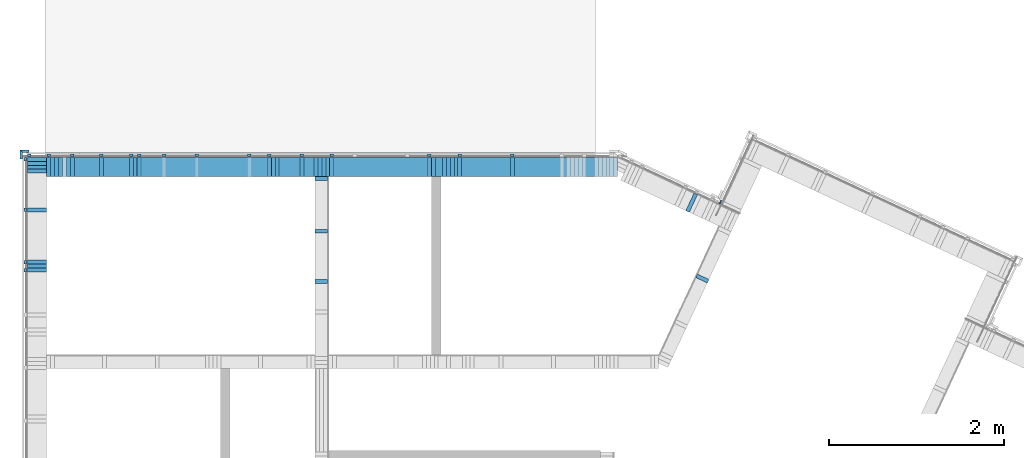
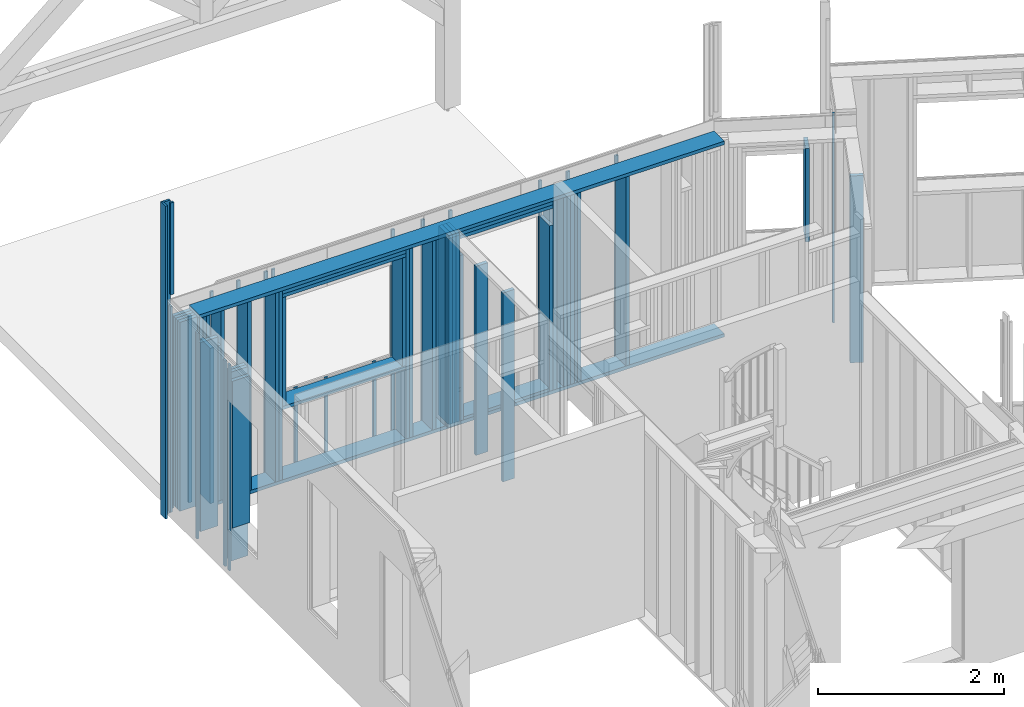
# One storey, part 13 of 34: 69 members.
"""IFC2X3 building model written with IfcOpenShell, lengths in metres."""

from ifc_helpers import new_model, si_unit, direction, frame, origin_with_axes, place, context, subcontext, project, spatial, faceted_brep, material, element, save


model = new_model("IFC2X3")

# Units and contexts
model_context = context("Model", 3, precision=1e-06, world=origin_with_axes(), true_north=direction((0.0, 1.0, 0.0)))
body_context = subcontext(model_context, "Body", "Model", "MODEL_VIEW")
ifc_project = project(units=[si_unit("LENGTHUNIT", "METRE"), si_unit("AREAUNIT", "SQUARE_METRE"), si_unit("VOLUMEUNIT", "CUBIC_METRE"), si_unit("PLANEANGLEUNIT", "RADIAN")], contexts=[model_context])

# Site, building, storey
site_placement = place(None, origin_with_axes())
site = spatial("IfcSite", under=ifc_project, at=site_placement, CompositionType="ELEMENT")
building_placement = place(site_placement, origin_with_axes())
building = spatial("IfcBuilding", under=site, at=building_placement, Name="Building 1", CompositionType="ELEMENT")
storey_placement = place(building_placement, origin_with_axes())
storey = spatial("IfcBuildingStorey", under=building, at=storey_placement, Name="Rez de chaussée", CompositionType="ELEMENT", Elevation=0.0)

# Members
ifc_material_1 = material(Name="Epicéa C24")
for number, where, z_axis, x_axis, name in (
    (1, (0.8545, 7.786, 2.568), (0.0, 1.0, 0.0), (0.0, 0.0, -1.0), "Montant"),
    (2, (0.122, 7.7385, 2.568), (-1.0, 0.0, 0.0), (0.0, 0.0, -1.0), "Montant"),
):
    element("IfcMember", number, at=place(storey_placement, frame(where, z_axis=z_axis, x_axis=x_axis)), inside=storey, material=ifc_material_1, Name=name, context=body_context, shape_type="Brep", body=[
        faceted_brep([(2.478, -0.0225, -0.11), (2.478, 0.0225, -0.11), (2.478, 0.0225, 0.11), (2.478, -0.0225, 0.11), (0.0, -0.0225, 0.11), (0.0, -0.0225, -0.11), (0.0, 0.0225, -0.11), (0.0, 0.0225, 0.11)], [[[0, 1, 2, 3]], [[0, 3, 4, 5]], [[1, 0, 5, 6]], [[2, 1, 6, 7]], [[3, 2, 7, 4]], [[4, 7, 6, 5]]]),
    ])
for number, where, z_axis, x_axis, name in (
    (3, (1.5705712, 7.921, 1.052), (0.0, 1.0, 0.0), (0.0, 0.0, -1.0), "latte 27/40"),
    (4, (2.5431423, 7.921, 1.052), (0.0, 1.0, 0.0), (0.0, 0.0, -1.0), "latte 27/40"),
    (5, (1.9431423, 7.921, 1.052), (0.0, 1.0, 0.0), (0.0, 0.0, -1.0), "latte 27/40"),
):
    element("IfcMember", number, at=place(storey_placement, frame(where, z_axis=z_axis, x_axis=x_axis)), inside=storey, material=ifc_material_1, Name=name, context=body_context, shape_type="Brep", body=[
        faceted_brep([(1.047, 0.02, -0.012), (1.047, 0.02, 0.012), (1.047, -0.02, 0.012), (1.047, -0.02, -0.012), (0.0, 0.02, 0.012), (0.0, 0.02, -0.012), (0.0, -0.02, -0.012), (0.0, -0.02, 0.012)], [[[0, 1, 2, 3]], [[4, 5, 6, 7]], [[3, 6, 5, 0]], [[2, 7, 6, 3]], [[1, 4, 7, 2]], [[0, 5, 4, 1]]]),
    ])
member_1_placement = place(storey_placement, frame((0.8545, 7.921, 2.703), z_axis=(0.0, 1.0, 0.0), x_axis=(0.0, 0.0, -1.0)))
element("IfcMember", 6, at=member_1_placement, inside=storey, material=ifc_material_1, Name="latte 27/40", context=body_context, shape_type="Brep", body=[
    faceted_brep([(2.698, 0.02, -0.012), (2.698, 0.02, 0.012), (2.698, -0.02, 0.012), (2.698, -0.02, -0.012), (0.0, 0.02, 0.012), (0.0, 0.02, -0.012), (0.0, -0.02, -0.012), (0.0, -0.02, 0.012)], [[[0, 1, 2, 3]], [[4, 5, 6, 7]], [[3, 6, 5, 0]], [[2, 7, 6, 3]], [[1, 4, 7, 2]], [[0, 5, 4, 1]]]),
])
member_2_placement = place(storey_placement, frame((0.2545, 7.921, 2.4502277), z_axis=(0.0, 1.0, 0.0), x_axis=(0.0, 0.0, -1.0)))
element("IfcMember", 7, at=member_2_placement, inside=storey, material=ifc_material_1, Name="latte 27/40", context=body_context, shape_type="Brep", body=[
    faceted_brep([(2.4452277, 0.02, -0.012), (2.4452277, 0.02, 0.012), (2.4452277, -0.02, 0.012), (2.4452277, -0.02, -0.012), (0.0, 0.02, 0.012), (0.0, 0.02, -0.012), (0.0, -0.02, -0.012), (0.0, -0.02, 0.012)], [[[0, 1, 2, 3]], [[4, 5, 6, 7]], [[3, 6, 5, 0]], [[2, 7, 6, 3]], [[1, 4, 7, 2]], [[0, 5, 4, 1]]]),
])
member_3_placement = place(storey_placement, frame((2.7718743, 7.786, 2.478), z_axis=(0.0, 1.0, 0.0), x_axis=(0.0, 0.0, -1.0)))
element("IfcMember", 8, at=member_3_placement, inside=storey, material=ifc_material_1, Name="Montant", context=body_context, shape_type="Brep", body=[
    faceted_brep([(1.426, -0.0225, -0.11), (1.426, 0.0225, -0.11), (1.426, 0.0225, 0.11), (1.426, -0.0225, 0.11), (0.0, 0.0225, -0.11), (0.0, 0.0225, 0.11), (0.0, -0.0225, -0.11), (0.0, -0.0225, 0.11)], [[[0, 1, 2, 3]], [[2, 1, 4, 5]], [[1, 0, 6, 4]], [[0, 3, 7, 6]], [[3, 2, 5, 7]], [[7, 5, 4, 6]]]),
])
for number, where, z_axis, x_axis, name in (
    (9, (4.598, 7.921, 2.703), (0.0, 1.0, 0.0), (0.0, 0.0, -1.0), "latte 27/40"),
    (10, (5.5431423, 7.921, 2.703), (0.0, 1.0, 0.0), (0.0, 0.0, -1.0), "latte 27/40"),
    (11, (4.9431423, 7.921, 2.703), (0.0, 1.0, 0.0), (0.0, 0.0, -1.0), "latte 27/40"),
):
    element("IfcMember", number, at=place(storey_placement, frame(where, z_axis=z_axis, x_axis=x_axis)), inside=storey, material=ifc_material_1, Name=name, context=body_context, shape_type="Brep", body=[
        faceted_brep([(2.698, 0.02, -0.012), (2.698, 0.02, 0.012), (2.698, -0.02, 0.012), (2.698, -0.02, -0.012), (0.0, 0.02, 0.012), (0.0, 0.02, -0.012), (0.0, -0.02, -0.012), (0.0, -0.02, 0.012)], [[[0, 1, 2, 3]], [[4, 5, 6, 7]], [[3, 6, 5, 0]], [[2, 7, 6, 3]], [[1, 4, 7, 2]], [[0, 5, 4, 1]]]),
    ])
for number, where, z_axis, x_axis, name in (
    (12, (4.9431423, 7.786, 2.568), (0.0, 1.0, 0.0), (0.0, 0.0, -1.0), "Montant"),
    (13, (3.1431423, 7.786, 2.568), (0.0, 1.0, 0.0), (0.0, 0.0, -1.0), "Montant"),
    (14, (5.5431423, 7.786, 2.568), (0.0, 1.0, 0.0), (0.0, 0.0, -1.0), "Montant"),
):
    element("IfcMember", number, at=place(storey_placement, frame(where, z_axis=z_axis, x_axis=x_axis)), inside=storey, material=ifc_material_1, Name=name, context=body_context, shape_type="Brep", body=[
        faceted_brep([(2.478, -0.0225, -0.11), (2.478, 0.0225, -0.11), (2.478, 0.0225, 0.11), (2.478, -0.0225, 0.11), (0.0, -0.0225, 0.11), (0.0, -0.0225, -0.11), (0.0, 0.0225, -0.11), (0.0, 0.0225, 0.11)], [[[0, 1, 2, 3]], [[0, 3, 4, 5]], [[1, 0, 5, 6]], [[2, 1, 6, 7]], [[3, 2, 7, 4]], [[4, 7, 6, 5]]]),
    ])
member_4_placement = place(storey_placement, frame((3.1431423, 7.921, 2.703), z_axis=(0.0, 1.0, 0.0), x_axis=(0.0, 0.0, -1.0)))
element("IfcMember", 15, at=member_4_placement, inside=storey, material=ifc_material_1, Name="latte 27/40", context=body_context, shape_type="Brep", body=[
    faceted_brep([(2.698, 0.02, -0.012), (2.698, 0.02, 0.012), (2.698, -0.02, 0.012), (2.698, -0.02, -0.012), (0.0, 0.02, 0.012), (0.0, 0.02, -0.012), (0.0, -0.02, -0.012), (0.0, -0.02, 0.012)], [[[0, 1, 2, 3]], [[4, 5, 6, 7]], [[3, 6, 5, 0]], [[2, 7, 6, 3]], [[1, 4, 7, 2]], [[0, 5, 4, 1]]]),
])
member_5_placement = place(storey_placement, frame((0.122, 7.8735, 2.568), z_axis=(-1.0, 0.0, 0.0), x_axis=(0.0, 0.0, -1.0)))
element("IfcMember", 16, at=member_5_placement, inside=storey, material=ifc_material_1, Name="Montant", context=body_context, shape_type="Brep", body=[
    faceted_brep([(2.478, -0.0225, -0.11), (2.478, 0.0225, -0.11), (2.478, 0.0225, 0.11), (2.478, -0.0225, 0.11), (0.0, -0.0225, 0.11), (0.0, -0.0225, -0.11), (0.0, 0.0225, -0.11), (0.0, 0.0225, 0.11)], [[[0, 1, 2, 3]], [[0, 3, 4, 5]], [[1, 0, 5, 6]], [[2, 1, 6, 7]], [[3, 2, 7, 4]], [[4, 7, 6, 5]]]),
])
member_6_placement = place(storey_placement, frame((2.7943743, 7.786, 2.5455), z_axis=(0.0, 1.0, 0.0), x_axis=(-1.0, 0.0, 0.0)))
element("IfcMember", 17, at=member_6_placement, inside=storey, material=ifc_material_1, Name="Montant", context=body_context, shape_type="Brep", body=[
    faceted_brep([(1.53, -0.0225, -0.11), (1.53, 0.0225, -0.11), (1.53, 0.0225, 0.11), (1.53, -0.0225, 0.11), (0.0, 0.0225, -0.11), (0.0, -0.0225, -0.11), (0.0, -0.0225, 0.11), (0.0, 0.0225, 0.11)], [[[0, 1, 2, 3]], [[4, 5, 6, 7]], [[6, 5, 0, 3]], [[5, 4, 1, 0]], [[4, 7, 2, 1]], [[7, 6, 3, 2]]]),
])
for number, where, z_axis, x_axis, name in (
    (18, (4.643, 7.786, 2.568), (0.0, 1.0, 0.0), (0.0, 0.0, -1.0), "Montant"),
    (19, (3.393, 7.786, 2.568), (0.0, 1.0, 0.0), (0.0, 0.0, -1.0), "Montant"),
):
    element("IfcMember", number, at=place(storey_placement, frame(where, z_axis=z_axis, x_axis=x_axis)), inside=storey, material=ifc_material_1, Name=name, context=body_context, shape_type="Brep", body=[
        faceted_brep([(2.478, -0.0225, -0.11), (2.478, 0.0225, -0.11), (2.478, 0.0225, 0.11), (2.478, -0.0225, 0.11), (0.0, -0.0225, 0.11), (0.0, -0.0225, -0.11), (0.0, 0.0225, -0.11), (0.0, 0.0225, 0.11)], [[[0, 1, 2, 3]], [[0, 3, 4, 5]], [[1, 0, 5, 6]], [[2, 1, 6, 7]], [[3, 2, 7, 4]], [[4, 7, 6, 5]]]),
    ])
member_7_placement = place(storey_placement, frame((1.1968743, 7.921, 2.703), z_axis=(0.0, 1.0, 0.0), x_axis=(0.0, 0.0, -1.0)))
element("IfcMember", 20, at=member_7_placement, inside=storey, material=ifc_material_1, Name="latte 27/40", context=body_context, shape_type="Brep", body=[
    faceted_brep([(2.698, 0.02, -0.012), (2.698, 0.02, 0.012), (2.698, -0.02, 0.012), (2.698, -0.02, -0.012), (0.0, 0.02, 0.012), (0.0, 0.02, -0.012), (0.0, -0.02, -0.012), (0.0, -0.02, 0.012)], [[[0, 1, 2, 3]], [[4, 5, 6, 7]], [[3, 6, 5, 0]], [[2, 7, 6, 3]], [[1, 4, 7, 2]], [[0, 5, 4, 1]]]),
])
member_8_placement = place(storey_placement, frame((4.769, 7.786, 2.568), z_axis=(0.0, 1.0, 0.0), x_axis=(0.0, 0.0, -1.0)))
element("IfcMember", 21, at=member_8_placement, inside=storey, material=ifc_material_1, Name="Montant", context=body_context, shape_type="Brep", body=[
    faceted_brep([(2.478, -0.0225, -0.11), (2.478, 0.0225, -0.11), (2.478, 0.0225, 0.11), (2.478, -0.0225, 0.11), (0.0, -0.0225, 0.11), (0.0, -0.0225, -0.11), (0.0, 0.0225, -0.11), (0.0, 0.0225, 0.11)], [[[0, 1, 2, 3]], [[0, 3, 4, 5]], [[1, 0, 5, 6]], [[2, 1, 6, 7]], [[3, 2, 7, 4]], [[4, 7, 6, 5]]]),
])
member_9_placement = place(storey_placement, frame((2.7943743, 7.786, 2.5005), z_axis=(0.0, 1.0, 0.0), x_axis=(-1.0, 0.0, 0.0)))
element("IfcMember", 22, at=member_9_placement, inside=storey, material=ifc_material_1, Name="Montant", context=body_context, shape_type="Brep", body=[
    faceted_brep([(1.53, -0.0225, -0.11), (1.53, 0.0225, -0.11), (1.53, 0.0225, 0.11), (1.53, -0.0225, 0.11), (0.0, 0.0225, -0.11), (0.0, -0.0225, -0.11), (0.0, -0.0225, 0.11), (0.0, 0.0225, 0.11)], [[[0, 1, 2, 3]], [[4, 5, 6, 7]], [[6, 5, 0, 3]], [[5, 4, 1, 0]], [[4, 7, 2, 1]], [[7, 6, 3, 2]]]),
])
ifc_material_2 = material(Name="NH II")
member_10_placement = place(storey_placement, frame((-0.0205, 7.9675, -0.08), z_axis=(-1.0, 0.0, 0.0), x_axis=(0.0, 0.0, 1.0)))
element("IfcMember", 23, at=member_10_placement, inside=storey, material=ifc_material_2, Name="Couvre joint", context=body_context, shape_type="Brep", body=[
    faceted_brep([(0.0, 0.0135, 0.0525), (0.0, -0.0135, 0.0255), (4.1028151, -0.0135, 0.0255), (4.1028151, 0.0135, 0.0525), (4.1028151, -0.0135, -0.0525), (4.1028151, 0.0135, -0.0525), (0.0, -0.0135, -0.0525), (0.0, 0.0135, -0.0525)], [[[0, 1, 2, 3]], [[3, 2, 4, 5]], [[2, 1, 6, 4]], [[1, 0, 7, 6]], [[4, 6, 7, 5]], [[5, 7, 0, 3]]]),
])
member_11_placement = place(storey_placement, frame((0.122, 6.6106735, 2.478), z_axis=(-1.0, 0.0, 0.0), x_axis=(0.0, 0.0, -1.0)))
element("IfcMember", 24, at=member_11_placement, inside=storey, material=ifc_material_1, Name="Montant", context=body_context, shape_type="Brep", body=[
    faceted_brep([(1.926, -0.0225, -0.11), (1.926, 0.0225, -0.11), (1.926, 0.0225, 0.11), (1.926, -0.0225, 0.11), (0.0, 0.0225, -0.11), (0.0, 0.0225, 0.11), (0.0, -0.0225, -0.11), (0.0, -0.0225, 0.11)], [[[0, 1, 2, 3]], [[2, 1, 4, 5]], [[1, 0, 6, 4]], [[0, 3, 7, 6]], [[3, 2, 5, 7]], [[7, 5, 4, 6]]]),
])
member_12_placement = place(storey_placement, frame((-0.0595, 7.9285, -0.08), z_axis=(0.0, -1.0, 0.0), x_axis=(0.0, 0.0, 1.0)))
element("IfcMember", 25, at=member_12_placement, inside=storey, material=ifc_material_2, Name="Couvre joint", context=body_context, shape_type="Brep", body=[
    faceted_brep([(0.0, -0.0135, -0.0255), (0.0, 0.0135, -0.0525), (4.1028151, 0.0135, -0.0525), (4.1028151, -0.0135, -0.0255), (0.0, -0.0135, 0.0525), (0.0, 0.0135, 0.0525), (4.1028151, 0.0135, 0.0525), (4.1028151, -0.0135, 0.0525)], [[[0, 1, 2, 3]], [[1, 0, 4, 5]], [[3, 2, 6, 7]], [[0, 3, 7, 4]], [[6, 5, 4, 7]], [[2, 1, 5, 6]]]),
])
member_13_placement = place(storey_placement, frame((-0.013, 6.6106735, 2.703), z_axis=(-1.0, 0.0, 0.0), x_axis=(0.0, 0.0, -1.0)))
element("IfcMember", 26, at=member_13_placement, inside=storey, material=ifc_material_1, Name="latte 27/40", context=body_context, shape_type="Brep", body=[
    faceted_brep([(0.0, -0.02, 0.012), (0.0, 0.02, 0.012), (0.0, 0.02, -0.012), (0.0, -0.02, -0.012), (2.698, 0.02, -0.012), (2.698, -0.02, -0.012), (2.698, -0.02, 0.012), (2.698, 0.02, 0.012)], [[[0, 1, 2, 3]], [[3, 2, 4, 5]], [[0, 3, 5, 6]], [[1, 0, 6, 7]], [[7, 6, 5, 4]], [[2, 1, 7, 4]]]),
])
member_14_placement = place(storey_placement, frame((6.7411423, 7.786, 0.0675), z_axis=(0.0, -1.0, 0.0), x_axis=(-1.0, 0.0, 0.0)))
element("IfcMember", 27, at=member_14_placement, inside=storey, material=ifc_material_1, Name="Lisse basse", context=body_context, shape_type="Brep", body=[
    faceted_brep([(0.0, 0.0225, -0.11), (0.0, -0.0225, -0.11), (0.0, -0.0225, 0.11), (0.0, 0.0225, 0.11), (6.5091423, -0.0225, -0.11), (6.5091423, -0.0225, 0.11), (6.5091423, 0.0225, -0.11), (6.5091423, 0.0225, 0.11)], [[[0, 1, 2, 3]], [[2, 1, 4, 5]], [[1, 0, 6, 4]], [[5, 4, 6, 7]], [[0, 3, 7, 6]], [[3, 2, 5, 7]]]),
])
for number, where, z_axis, x_axis, name in (
    (28, (0.122, 7.8285, 2.568), (-1.0, 0.0, 0.0), (0.0, 0.0, -1.0), "Montant"),
    (29, (0.122, 7.298, 2.568), (-1.0, 0.0, 0.0), (0.0, 0.0, -1.0), "Montant"),
):
    element("IfcMember", number, at=place(storey_placement, frame(where, z_axis=z_axis, x_axis=x_axis)), inside=storey, material=ifc_material_1, Name=name, context=body_context, shape_type="Brep", body=[
        faceted_brep([(2.478, -0.0225, -0.11), (2.478, 0.0225, -0.11), (2.478, 0.0225, 0.11), (2.478, -0.0225, 0.11), (0.0, -0.0225, 0.11), (0.0, -0.0225, -0.11), (0.0, 0.0225, -0.11), (0.0, 0.0225, 0.11)], [[[0, 1, 2, 3]], [[0, 3, 4, 5]], [[1, 0, 5, 6]], [[2, 1, 6, 7]], [[3, 2, 7, 4]], [[4, 7, 6, 5]]]),
    ])
member_15_placement = place(storey_placement, frame((3.483, 7.786, 2.26), z_axis=(0.0, 1.0, 0.0), x_axis=(0.0, 0.0, -1.0)))
element("IfcMember", 30, at=member_15_placement, inside=storey, material=ifc_material_1, Name="Montant", context=body_context, shape_type="Brep", body=[
    faceted_brep([(2.17, -0.0225, -0.11), (2.17, 0.0225, -0.11), (2.17, 0.0225, 0.11), (2.17, -0.0225, 0.11), (0.0, -0.0225, 0.11), (0.0, -0.0225, -0.11), (0.0, 0.0225, -0.11), (0.0, 0.0225, 0.11)], [[[0, 1, 2, 3]], [[0, 3, 4, 5]], [[1, 0, 5, 6]], [[2, 1, 6, 7]], [[3, 2, 7, 4]], [[4, 7, 6, 5]]]),
])
member_16_placement = place(storey_placement, frame((7.9260452, 7.3842957, 2.745), z_axis=(0.9063078, -0.4226183, 0.0), x_axis=(0.0, 0.0, -1.0)))
element("IfcMember", 31, at=member_16_placement, inside=storey, material=ifc_material_1, Name="latte 27/40", context=body_context, shape_type="Brep", body=[
    faceted_brep([(2.74, 0.02, 0.012), (2.74, -0.02, 0.012), (2.74, -0.02, -0.012), (2.74, 0.02, -0.012), (0.0, -0.02, -0.012), (0.0, 0.02, -0.012), (0.0, 0.02, 0.012), (0.0, -0.02, 0.012)], [[[0, 1, 2, 3]], [[3, 2, 4, 5]], [[0, 3, 5, 6]], [[1, 0, 6, 7]], [[2, 1, 7, 4]], [[7, 6, 5, 4]]]),
])
member_17_placement = place(storey_placement, frame((2.8168743, 7.786, 2.568), z_axis=(0.0, 1.0, 0.0), x_axis=(0.0, 0.0, -1.0)))
element("IfcMember", 32, at=member_17_placement, inside=storey, material=ifc_material_1, Name="Montant", context=body_context, shape_type="Brep", body=[
    faceted_brep([(2.478, -0.0225, -0.11), (2.478, 0.0225, -0.11), (2.478, 0.0225, 0.11), (2.478, -0.0225, 0.11), (0.0, -0.0225, 0.11), (0.0, -0.0225, -0.11), (0.0, 0.0225, -0.11), (0.0, 0.0225, 0.11)], [[[0, 1, 2, 3]], [[0, 3, 4, 5]], [[1, 0, 5, 6]], [[2, 1, 6, 7]], [[3, 2, 7, 4]], [[4, 7, 6, 5]]]),
])
member_18_placement = place(storey_placement, frame((2.7943743, 7.786, 1.0295), z_axis=(0.0, 1.0, 0.0), x_axis=(-1.0, 0.0, 0.0)))
element("IfcMember", 33, at=member_18_placement, inside=storey, material=ifc_material_1, Name="Montant", context=body_context, shape_type="Brep", body=[
    faceted_brep([(1.53, -0.0225, -0.11), (1.53, 0.0225, -0.11), (1.53, 0.0225, 0.11), (1.53, -0.0225, 0.11), (0.0, 0.0225, -0.11), (0.0, -0.0225, -0.11), (0.0, -0.0225, 0.11), (0.0, 0.0225, 0.11)], [[[0, 1, 2, 3]], [[4, 5, 6, 7]], [[6, 5, 0, 3]], [[5, 4, 1, 0]], [[4, 7, 2, 1]], [[7, 6, 3, 2]]]),
])
member_19_placement = place(storey_placement, frame((0.524, 7.786, 2.568), z_axis=(0.0, 1.0, 0.0), x_axis=(0.0, 0.0, -1.0)))
element("IfcMember", 34, at=member_19_placement, inside=storey, material=ifc_material_1, Name="Montant", context=body_context, shape_type="Brep", body=[
    faceted_brep([(2.478, -0.0225, -0.11), (2.478, 0.0225, -0.11), (2.478, 0.0225, 0.11), (2.478, -0.0225, 0.11), (0.0, -0.0225, 0.11), (0.0, -0.0225, -0.11), (0.0, 0.0225, -0.11), (0.0, 0.0225, 0.11)], [[[0, 1, 2, 3]], [[0, 3, 4, 5]], [[1, 0, 5, 6]], [[2, 1, 6, 7]], [[3, 2, 7, 4]], [[4, 7, 6, 5]]]),
])
member_20_placement = place(storey_placement, frame((-0.013, 7.298, 2.703), z_axis=(-1.0, 0.0, 0.0), x_axis=(0.0, 0.0, -1.0)))
element("IfcMember", 35, at=member_20_placement, inside=storey, material=ifc_material_1, Name="latte 27/40", context=body_context, shape_type="Brep", body=[
    faceted_brep([(0.0, -0.02, 0.012), (0.0, 0.02, 0.012), (0.0, 0.02, -0.012), (0.0, -0.02, -0.012), (2.698, 0.02, -0.012), (2.698, -0.02, -0.012), (2.698, -0.02, 0.012), (2.698, 0.02, 0.012)], [[[0, 1, 2, 3]], [[3, 2, 4, 5]], [[0, 3, 5, 6]], [[1, 0, 6, 7]], [[7, 6, 5, 4]], [[2, 1, 7, 4]]]),
])
member_21_placement = place(storey_placement, frame((2.7718743, 7.921, 2.703), z_axis=(0.0, 1.0, 0.0), x_axis=(0.0, 0.0, -1.0)))
element("IfcMember", 36, at=member_21_placement, inside=storey, material=ifc_material_1, Name="latte 27/40", context=body_context, shape_type="Brep", body=[
    faceted_brep([(2.698, 0.02, -0.012), (2.698, 0.02, 0.012), (2.698, -0.02, 0.012), (2.698, -0.02, -0.012), (0.0, 0.02, 0.012), (0.0, 0.02, -0.012), (0.0, -0.02, -0.012), (0.0, -0.02, 0.012)], [[[0, 1, 2, 3]], [[4, 5, 6, 7]], [[3, 6, 5, 0]], [[2, 7, 6, 3]], [[1, 4, 7, 2]], [[0, 5, 4, 1]]]),
])
member_22_placement = place(storey_placement, frame((-0.013, 7.8735, 2.703), z_axis=(-1.0, 0.0, 0.0), x_axis=(0.0, 0.0, -1.0)))
element("IfcMember", 37, at=member_22_placement, inside=storey, material=ifc_material_1, Name="latte 27/40", context=body_context, shape_type="Brep", body=[
    faceted_brep([(0.0, -0.02, 0.012), (0.0, 0.02, 0.012), (0.0, 0.02, -0.012), (0.0, -0.02, -0.012), (2.698, 0.02, -0.012), (2.698, -0.02, -0.012), (2.698, -0.02, 0.012), (2.698, 0.02, 0.012)], [[[0, 1, 2, 3]], [[3, 2, 4, 5]], [[0, 3, 5, 6]], [[1, 0, 6, 7]], [[7, 6, 5, 4]], [[2, 1, 7, 4]]]),
])
member_23_placement = place(storey_placement, frame((3.348, 7.786, 2.568), z_axis=(0.0, 1.0, 0.0), x_axis=(0.0, 0.0, -1.0)))
element("IfcMember", 38, at=member_23_placement, inside=storey, material=ifc_material_1, Name="Montant", context=body_context, shape_type="Brep", body=[
    faceted_brep([(2.478, -0.0225, -0.11), (2.478, 0.0225, -0.11), (2.478, 0.0225, 0.11), (2.478, -0.0225, 0.11), (0.0, -0.0225, 0.11), (0.0, -0.0225, -0.11), (0.0, 0.0225, -0.11), (0.0, 0.0225, 0.11)], [[[0, 1, 2, 3]], [[0, 3, 4, 5]], [[1, 0, 5, 6]], [[2, 1, 6, 7]], [[3, 2, 7, 4]], [[4, 7, 6, 5]]]),
])
member_24_placement = place(storey_placement, frame((3.483, 7.921, 2.703), z_axis=(0.0, 1.0, 0.0), x_axis=(0.0, 0.0, -1.0)))
element("IfcMember", 39, at=member_24_placement, inside=storey, material=ifc_material_1, Name="latte 27/40", context=body_context, shape_type="Brep", body=[
    faceted_brep([(2.698, 0.02, -0.012), (2.698, 0.02, 0.012), (2.698, -0.02, 0.012), (2.698, -0.02, -0.012), (0.0, 0.02, 0.012), (0.0, 0.02, -0.012), (0.0, -0.02, -0.012), (0.0, -0.02, 0.012)], [[[0, 1, 2, 3]], [[4, 5, 6, 7]], [[3, 6, 5, 0]], [[2, 7, 6, 3]], [[1, 4, 7, 2]], [[0, 5, 4, 1]]]),
])
for number, where, z_axis, x_axis, name in (
    (40, (3.303, 7.786, 2.568), (0.0, 1.0, 0.0), (0.0, 0.0, -1.0), "Montant"),
    (41, (0.2545, 7.786, 2.568), (0.0, 1.0, 0.0), (0.0, 0.0, -1.0), "Montant"),
):
    element("IfcMember", number, at=place(storey_placement, frame(where, z_axis=z_axis, x_axis=x_axis)), inside=storey, material=ifc_material_1, Name=name, context=body_context, shape_type="Brep", body=[
        faceted_brep([(2.478, -0.0225, -0.11), (2.478, 0.0225, -0.11), (2.478, 0.0225, 0.11), (2.478, -0.0225, 0.11), (0.0, -0.0225, 0.11), (0.0, -0.0225, -0.11), (0.0, 0.0225, -0.11), (0.0, 0.0225, 0.11)], [[[0, 1, 2, 3]], [[0, 3, 4, 5]], [[1, 0, 5, 6]], [[2, 1, 6, 7]], [[3, 2, 7, 4]], [[4, 7, 6, 5]]]),
    ])
member_25_placement = place(storey_placement, frame((3.3635, 7.6535, 2.568), z_axis=(1.0, 0.0, 0.0), x_axis=(0.0, 0.0, -1.0)))
element("IfcMember", 42, at=member_25_placement, inside=storey, material=ifc_material_1, Name="Montant", context=body_context, shape_type="Brep", body=[
    faceted_brep([(2.478, -0.0225, -0.0725), (2.478, 0.0225, -0.0725), (2.478, 0.0225, 0.0725), (2.478, -0.0225, 0.0725), (0.0, 0.0225, -0.0725), (0.0, 0.0225, 0.0725), (0.0, -0.0225, -0.0725), (0.0, -0.0225, 0.0725)], [[[0, 1, 2, 3]], [[2, 1, 4, 5]], [[1, 0, 6, 4]], [[0, 3, 7, 6]], [[3, 2, 5, 7]], [[7, 5, 4, 6]]]),
])
member_26_placement = place(storey_placement, frame((0.032, 7.921, 2.2635281), z_axis=(0.0, 1.0, 0.0), x_axis=(0.0, 0.0, -1.0)))
element("IfcMember", 43, at=member_26_placement, inside=storey, material=ifc_material_1, Name="latte chantier", context=body_context, shape_type="Brep", body=[
    faceted_brep([(2.2585281, 0.02, -0.012), (2.2585281, 0.02, 0.012), (2.2585281, -0.02, 0.012), (2.2585281, -0.02, -0.012), (0.0, 0.02, 0.012), (0.0, 0.02, -0.012), (0.0, -0.02, -0.012), (0.0, -0.02, 0.012)], [[[0, 1, 2, 3]], [[4, 5, 6, 7]], [[3, 6, 5, 0]], [[2, 7, 6, 3]], [[1, 4, 7, 2]], [[0, 5, 4, 1]]]),
])
for number, where, z_axis, x_axis, name in (
    (44, (4.859, 7.786, 2.568), (0.0, 1.0, 0.0), (0.0, 0.0, -1.0), "Montant"),
    (45, (4.814, 7.786, 2.568), (0.0, 1.0, 0.0), (0.0, 0.0, -1.0), "Montant"),
):
    element("IfcMember", number, at=place(storey_placement, frame(where, z_axis=z_axis, x_axis=x_axis)), inside=storey, material=ifc_material_1, Name=name, context=body_context, shape_type="Brep", body=[
        faceted_brep([(2.478, -0.0225, -0.11), (2.478, 0.0225, -0.11), (2.478, 0.0225, 0.11), (2.478, -0.0225, 0.11), (0.0, -0.0225, 0.11), (0.0, -0.0225, -0.11), (0.0, 0.0225, -0.11), (0.0, 0.0225, 0.11)], [[[0, 1, 2, 3]], [[0, 3, 4, 5]], [[1, 0, 5, 6]], [[2, 1, 6, 7]], [[3, 2, 7, 4]], [[4, 7, 6, 5]]]),
    ])
member_27_placement = place(storey_placement, frame((0.03, 7.921, 4.0178151), z_axis=(0.0, 1.0, 0.0), x_axis=(0.0, 0.0, -1.0)))
element("IfcMember", 46, at=member_27_placement, inside=storey, material=ifc_material_1, Name="latte chantier", context=body_context, shape_type="Brep", body=[
    faceted_brep([(1.2078151, 0.02, -0.012), (1.2078151, 0.02, 0.012), (1.2078151, -0.02, 0.012), (1.2078151, -0.02, -0.012), (0.0, 0.02, 0.012), (0.0, 0.02, -0.012), (0.0, -0.02, -0.012), (0.0, -0.02, 0.012)], [[[0, 1, 2, 3]], [[4, 5, 6, 7]], [[3, 6, 5, 0]], [[2, 7, 6, 3]], [[1, 4, 7, 2]], [[0, 5, 4, 1]]]),
])
member_28_placement = place(storey_placement, frame((6.7411423, 7.786, 2.5905), z_axis=(0.0, -1.0, 0.0), x_axis=(-1.0, 0.0, 0.0)))
element("IfcMember", 47, at=member_28_placement, inside=storey, material=ifc_material_1, Name="Montant", context=body_context, shape_type="Brep", body=[
    faceted_brep([(0.0, 0.0225, -0.11), (0.0, -0.0225, -0.11), (0.0, -0.0225, 0.11), (0.0, 0.0225, 0.11), (6.5091423, -0.0225, -0.11), (6.5091423, -0.0225, 0.11), (6.5091423, 0.0225, -0.11), (6.5091423, 0.0225, 0.11)], [[[0, 1, 2, 3]], [[2, 1, 4, 5]], [[1, 0, 6, 4]], [[5, 4, 6, 7]], [[0, 3, 7, 6]], [[3, 2, 5, 7]]]),
])
member_29_placement = place(storey_placement, frame((7.7106906, 6.5142963, 2.54), z_axis=(-0.9063078, 0.4226183, 0.0), x_axis=(0.0, 0.0, -1.0)))
element("IfcMember", 48, at=member_29_placement, inside=storey, material=ifc_material_1, Name="Montant", context=body_context, shape_type="Brep", body=[
    faceted_brep([(2.45, -0.0225, -0.0725), (2.45, 0.0225, -0.0725), (2.45, 0.0225, 0.0725), (2.45, -0.0225, 0.0725), (0.0, 0.0225, -0.0725), (0.0, 0.0225, 0.0725), (0.0, -0.0225, -0.0725), (0.0, -0.0225, 0.0725)], [[[0, 1, 2, 3]], [[2, 1, 4, 5]], [[1, 0, 6, 4]], [[0, 3, 7, 6]], [[3, 2, 5, 7]], [[7, 5, 4, 6]]]),
])
member_30_placement = place(storey_placement, frame((0.389, 7.786, 2.1255755), z_axis=(0.0, 1.0, 0.0), x_axis=(0.0, 0.0, -1.0)))
element("IfcMember", 49, at=member_30_placement, inside=storey, material=ifc_material_1, Name="Montant", context=body_context, shape_type="Brep", body=[
    faceted_brep([(2.0355755, 0.0225, 0.11), (2.0355755, -0.0225, 0.11), (2.0355755, -0.0225, -0.11), (2.0355755, 0.0225, -0.11), (0.0, -0.0225, 0.11), (0.0, -0.0225, -0.11), (0.0, 0.0225, 0.11), (0.0, 0.0225, -0.11)], [[[0, 1, 2, 3]], [[2, 1, 4, 5]], [[1, 0, 6, 4]], [[3, 2, 5, 7]], [[0, 3, 7, 6]], [[4, 6, 7, 5]]]),
])
member_31_placement = place(storey_placement, frame((7.5896333, 7.3789706, 2.475), z_axis=(0.4226183, 0.9063078, 0.0), x_axis=(0.0, 0.0, -1.0)))
element("IfcMember", 50, at=member_31_placement, inside=storey, material=ifc_material_1, Name="Montant", context=body_context, shape_type="Brep", body=[
    faceted_brep([(1.223, -0.0225, -0.11), (1.223, 0.0225, -0.11), (1.223, 0.0225, 0.11), (1.223, -0.0225, 0.11), (0.0, 0.0225, -0.11), (0.0, 0.0225, 0.11), (0.0, -0.0225, -0.11), (0.0, -0.0225, 0.11)], [[[0, 1, 2, 3]], [[2, 1, 4, 5]], [[1, 0, 6, 4]], [[0, 3, 7, 6]], [[3, 2, 5, 7]], [[7, 5, 4, 6]]]),
])
member_32_placement = place(storey_placement, frame((3.3635, 6.478, 2.568), z_axis=(1.0, 0.0, 0.0), x_axis=(0.0, 0.0, -1.0)))
element("IfcMember", 51, at=member_32_placement, inside=storey, material=ifc_material_1, Name="Montant", context=body_context, shape_type="Brep", body=[
    faceted_brep([(2.478, -0.0225, -0.0725), (2.478, 0.0225, -0.0725), (2.478, 0.0225, 0.0725), (2.478, -0.0225, 0.0725), (0.0, 0.0225, -0.0725), (0.0, 0.0225, 0.0725), (0.0, -0.0225, -0.0725), (0.0, -0.0225, 0.0725)], [[[0, 1, 2, 3]], [[2, 1, 4, 5]], [[1, 0, 6, 4]], [[0, 3, 7, 6]], [[3, 2, 5, 7]], [[7, 5, 4, 6]]]),
])
member_33_placement = place(storey_placement, frame((0.122, 6.6556735, 2.568), z_axis=(-1.0, 0.0, 0.0), x_axis=(0.0, 0.0, -1.0)))
element("IfcMember", 52, at=member_33_placement, inside=storey, material=ifc_material_1, Name="Montant", context=body_context, shape_type="Brep", body=[
    faceted_brep([(2.478, -0.0225, -0.11), (2.478, 0.0225, -0.11), (2.478, 0.0225, 0.11), (2.478, -0.0225, 0.11), (0.0, -0.0225, 0.11), (0.0, -0.0225, -0.11), (0.0, 0.0225, -0.11), (0.0, 0.0225, 0.11)], [[[0, 1, 2, 3]], [[0, 3, 4, 5]], [[1, 0, 5, 6]], [[2, 1, 6, 7]], [[3, 2, 7, 4]], [[4, 7, 6, 5]]]),
])
member_34_placement = place(storey_placement, frame((4.598, 7.786, 2.26), z_axis=(0.0, 1.0, 0.0), x_axis=(0.0, 0.0, -1.0)))
element("IfcMember", 53, at=member_34_placement, inside=storey, material=ifc_material_1, Name="Montant", context=body_context, shape_type="Brep", body=[
    faceted_brep([(2.17, -0.0225, -0.11), (2.17, 0.0225, -0.11), (2.17, 0.0225, 0.11), (2.17, -0.0225, 0.11), (0.0, -0.0225, 0.11), (0.0, -0.0225, -0.11), (0.0, 0.0225, -0.11), (0.0, 0.0225, 0.11)], [[[0, 1, 2, 3]], [[0, 3, 4, 5]], [[1, 0, 5, 6]], [[2, 1, 6, 7]], [[3, 2, 7, 4]], [[4, 7, 6, 5]]]),
])
member_35_placement = place(storey_placement, frame((3.4605, 7.786, 2.5455), z_axis=(0.0, 1.0, 0.0), x_axis=(1.0, 0.0, 0.0)))
element("IfcMember", 54, at=member_35_placement, inside=storey, material=ifc_material_1, Name="Montant", context=body_context, shape_type="Brep", body=[
    faceted_brep([(0.0, 0.0225, -0.11), (0.0, -0.0225, -0.11), (0.0, -0.0225, 0.11), (0.0, 0.0225, 0.11), (1.16, 0.0225, -0.11), (1.16, -0.0225, -0.11), (1.16, 0.0225, 0.11), (1.16, -0.0225, 0.11)], [[[0, 1, 2, 3]], [[1, 0, 4, 5]], [[0, 3, 6, 4]], [[5, 4, 6, 7]], [[2, 1, 5, 7]], [[3, 2, 7, 6]]]),
])
member_36_placement = place(storey_placement, frame((3.5055, 7.786, 0.1095), z_axis=(0.0, 1.0, 0.0), x_axis=(1.0, 0.0, 0.0)))
element("IfcMember", 55, at=member_36_placement, inside=storey, material=ifc_material_1, Name="Montant", context=body_context, shape_type="Brep", body=[
    faceted_brep([(1.07, 0.0195, 0.11), (0.0, 0.0195, 0.11), (0.0, -0.0195, 0.11), (1.07, -0.0195, 0.11), (1.07, -0.0195, -0.11), (0.0, -0.0195, -0.11), (0.0, 0.0195, -0.11), (1.07, 0.0195, -0.11)], [[[0, 1, 2, 3]], [[4, 3, 2, 5]], [[4, 5, 6, 7]], [[5, 2, 1, 6]], [[6, 1, 0, 7]], [[3, 4, 7, 0]]]),
])
member_37_placement = place(storey_placement, frame((3.438, 7.786, 2.568), z_axis=(0.0, 1.0, 0.0), x_axis=(0.0, 0.0, -1.0)))
element("IfcMember", 56, at=member_37_placement, inside=storey, material=ifc_material_1, Name="Montant", context=body_context, shape_type="Brep", body=[
    faceted_brep([(2.478, -0.0225, -0.11), (2.478, 0.0225, -0.11), (2.478, 0.0225, 0.11), (2.478, -0.0225, 0.11), (0.0, -0.0225, 0.11), (0.0, -0.0225, -0.11), (0.0, 0.0225, -0.11), (0.0, 0.0225, 0.11)], [[[0, 1, 2, 3]], [[0, 3, 4, 5]], [[1, 0, 5, 6]], [[2, 1, 6, 7]], [[3, 2, 7, 4]], [[4, 7, 6, 5]]]),
])
member_38_placement = place(storey_placement, frame((1.2868743, 7.921, 2.703), z_axis=(0.0, 1.0, 0.0), x_axis=(0.0, 0.0, -1.0)))
element("IfcMember", 57, at=member_38_placement, inside=storey, material=ifc_material_1, Name="latte 27/40", context=body_context, shape_type="Brep", body=[
    faceted_brep([(2.698, 0.02, -0.012), (2.698, 0.02, 0.012), (2.698, -0.02, 0.012), (2.698, -0.02, -0.012), (0.0, 0.02, 0.012), (0.0, 0.02, -0.012), (0.0, -0.02, -0.012), (0.0, -0.02, 0.012)], [[[0, 1, 2, 3]], [[4, 5, 6, 7]], [[3, 6, 5, 0]], [[2, 7, 6, 3]], [[1, 4, 7, 2]], [[0, 5, 4, 1]]]),
])
member_39_placement = place(storey_placement, frame((1.2418743, 7.786, 2.568), z_axis=(0.0, 1.0, 0.0), x_axis=(0.0, 0.0, -1.0)))
element("IfcMember", 58, at=member_39_placement, inside=storey, material=ifc_material_1, Name="Montant", context=body_context, shape_type="Brep", body=[
    faceted_brep([(2.478, -0.0225, -0.11), (2.478, 0.0225, -0.11), (2.478, 0.0225, 0.11), (2.478, -0.0225, 0.11), (0.0, -0.0225, 0.11), (0.0, -0.0225, -0.11), (0.0, 0.0225, -0.11), (0.0, 0.0225, 0.11)], [[[0, 1, 2, 3]], [[0, 3, 4, 5]], [[1, 0, 5, 6]], [[2, 1, 6, 7]], [[3, 2, 7, 4]], [[4, 7, 6, 5]]]),
])
member_40_placement = place(storey_placement, frame((1.2868743, 7.786, 2.478), z_axis=(0.0, 1.0, 0.0), x_axis=(0.0, 0.0, -1.0)))
element("IfcMember", 59, at=member_40_placement, inside=storey, material=ifc_material_1, Name="Montant", context=body_context, shape_type="Brep", body=[
    faceted_brep([(1.426, -0.0225, -0.11), (1.426, 0.0225, -0.11), (1.426, 0.0225, 0.11), (1.426, -0.0225, 0.11), (0.0, 0.0225, -0.11), (0.0, 0.0225, 0.11), (0.0, -0.0225, -0.11), (0.0, -0.0225, 0.11)], [[[0, 1, 2, 3]], [[2, 1, 4, 5]], [[1, 0, 6, 4]], [[0, 3, 7, 6]], [[3, 2, 5, 7]], [[7, 5, 4, 6]]]),
])
member_41_placement = place(storey_placement, frame((0.344, 7.786, 2.568), z_axis=(0.0, 1.0, 0.0), x_axis=(0.0, 0.0, -1.0)))
element("IfcMember", 60, at=member_41_placement, inside=storey, material=ifc_material_1, Name="Montant", context=body_context, shape_type="Brep", body=[
    faceted_brep([(2.478, -0.0225, -0.11), (2.478, 0.0225, -0.11), (2.478, 0.0225, 0.11), (2.478, -0.0225, 0.11), (0.0, -0.0225, 0.11), (0.0, -0.0225, -0.11), (0.0, 0.0225, -0.11), (0.0, 0.0225, 0.11)], [[[0, 1, 2, 3]], [[0, 3, 4, 5]], [[1, 0, 5, 6]], [[2, 1, 6, 7]], [[3, 2, 7, 4]], [[4, 7, 6, 5]]]),
])
member_42_placement = place(storey_placement, frame((3.3635, 7.0535, 2.568), z_axis=(1.0, 0.0, 0.0), x_axis=(0.0, 0.0, -1.0)))
element("IfcMember", 61, at=member_42_placement, inside=storey, material=ifc_material_1, Name="Montant", context=body_context, shape_type="Brep", body=[
    faceted_brep([(2.478, -0.0225, -0.0725), (2.478, 0.0225, -0.0725), (2.478, 0.0225, 0.0725), (2.478, -0.0225, 0.0725), (0.0, 0.0225, -0.0725), (0.0, 0.0225, 0.0725), (0.0, -0.0225, -0.0725), (0.0, -0.0225, 0.0725)], [[[0, 1, 2, 3]], [[2, 1, 4, 5]], [[1, 0, 6, 4]], [[0, 3, 7, 6]], [[3, 2, 5, 7]], [[7, 5, 4, 6]]]),
])
member_43_placement = place(storey_placement, frame((0.122, 6.7006735, 2.568), z_axis=(-1.0, 0.0, 0.0), x_axis=(0.0, 0.0, -1.0)))
element("IfcMember", 62, at=member_43_placement, inside=storey, material=ifc_material_1, Name="Montant", context=body_context, shape_type="Brep", body=[
    faceted_brep([(2.478, -0.0225, -0.11), (2.478, 0.0225, -0.11), (2.478, 0.0225, 0.11), (2.478, -0.0225, 0.11), (0.0, -0.0225, 0.11), (0.0, -0.0225, -0.11), (0.0, 0.0225, -0.11), (0.0, 0.0225, 0.11)], [[[0, 1, 2, 3]], [[0, 3, 4, 5]], [[1, 0, 5, 6]], [[2, 1, 6, 7]], [[3, 2, 7, 4]], [[4, 7, 6, 5]]]),
])
member_44_placement = place(storey_placement, frame((-0.013, 6.7006735, 2.703), z_axis=(-1.0, 0.0, 0.0), x_axis=(0.0, 0.0, -1.0)))
element("IfcMember", 63, at=member_44_placement, inside=storey, material=ifc_material_1, Name="latte 27/40", context=body_context, shape_type="Brep", body=[
    faceted_brep([(0.0, -0.02, 0.012), (0.0, 0.02, 0.012), (0.0, 0.02, -0.012), (0.0, -0.02, -0.012), (2.698, 0.02, -0.012), (2.698, -0.02, -0.012), (2.698, -0.02, 0.012), (2.698, 0.02, 0.012)], [[[0, 1, 2, 3]], [[3, 2, 4, 5]], [[0, 3, 5, 6]], [[1, 0, 6, 7]], [[7, 6, 5, 4]], [[2, 1, 7, 4]]]),
])
member_45_placement = place(storey_placement, frame((0.479, 7.786, 2.1255755), z_axis=(0.0, 1.0, 0.0), x_axis=(0.0, 0.0, -1.0)))
element("IfcMember", 64, at=member_45_placement, inside=storey, material=ifc_material_1, Name="Montant", context=body_context, shape_type="Brep", body=[
    faceted_brep([(2.0355755, 0.0225, 0.11), (2.0355755, -0.0225, 0.11), (2.0355755, -0.0225, -0.11), (2.0355755, 0.0225, -0.11), (0.0, -0.0225, 0.11), (0.0, -0.0225, -0.11), (0.0, 0.0225, 0.11), (0.0, 0.0225, -0.11)], [[[0, 1, 2, 3]], [[2, 1, 4, 5]], [[1, 0, 6, 4]], [[3, 2, 5, 7]], [[0, 3, 7, 6]], [[4, 6, 7, 5]]]),
])
member_46_placement = place(storey_placement, frame((3.4605, 7.786, 2.5005), z_axis=(0.0, 1.0, 0.0), x_axis=(1.0, 0.0, 0.0)))
element("IfcMember", 65, at=member_46_placement, inside=storey, material=ifc_material_1, Name="Montant", context=body_context, shape_type="Brep", body=[
    faceted_brep([(0.0, 0.0225, -0.11), (0.0, -0.0225, -0.11), (0.0, -0.0225, 0.11), (0.0, 0.0225, 0.11), (1.16, 0.0225, -0.11), (1.16, -0.0225, -0.11), (1.16, 0.0225, 0.11), (1.16, -0.0225, 0.11)], [[[0, 1, 2, 3]], [[1, 0, 4, 5]], [[0, 3, 6, 4]], [[5, 4, 6, 7]], [[2, 1, 5, 7]], [[3, 2, 7, 6]]]),
])
member_47_placement = place(storey_placement, frame((2.8618743, 7.786, 2.568), z_axis=(0.0, 1.0, 0.0), x_axis=(0.0, 0.0, -1.0)))
element("IfcMember", 66, at=member_47_placement, inside=storey, material=ifc_material_1, Name="Montant", context=body_context, shape_type="Brep", body=[
    faceted_brep([(2.478, -0.0225, -0.11), (2.478, 0.0225, -0.11), (2.478, 0.0225, 0.11), (2.478, -0.0225, 0.11), (0.0, -0.0225, 0.11), (0.0, -0.0225, -0.11), (0.0, 0.0225, -0.11), (0.0, 0.0225, 0.11)], [[[0, 1, 2, 3]], [[0, 3, 4, 5]], [[1, 0, 5, 6]], [[2, 1, 6, 7]], [[3, 2, 7, 4]], [[4, 7, 6, 5]]]),
])
member_48_placement = place(storey_placement, frame((0.524, 7.921, 2.6763651), z_axis=(0.0, 1.0, 0.0), x_axis=(0.0, 0.0, -1.0)))
element("IfcMember", 67, at=member_48_placement, inside=storey, material=ifc_material_1, Name="latte 27/40", context=body_context, shape_type="Brep", body=[
    faceted_brep([(2.6713651, 0.02, -0.012), (2.6713651, 0.02, 0.012), (2.6713651, -0.02, 0.012), (2.6713651, -0.02, -0.012), (0.0, 0.02, 0.012), (0.0, 0.02, -0.012), (0.0, -0.02, -0.012), (0.0, -0.02, 0.012)], [[[0, 1, 2, 3]], [[4, 5, 6, 7]], [[3, 6, 5, 0]], [[2, 7, 6, 3]], [[1, 4, 7, 2]], [[0, 5, 4, 1]]]),
])
for number, where, z_axis, x_axis, name in (
    (68, (1.1968743, 7.786, 2.568), (0.0, 1.0, 0.0), (0.0, 0.0, -1.0), "Montant"),
    (69, (0.122, 7.7835, 2.568), (-1.0, 0.0, 0.0), (0.0, 0.0, -1.0), "Montant"),
):
    element("IfcMember", number, at=place(storey_placement, frame(where, z_axis=z_axis, x_axis=x_axis)), inside=storey, material=ifc_material_1, Name=name, context=body_context, shape_type="Brep", body=[
        faceted_brep([(2.478, -0.0225, -0.11), (2.478, 0.0225, -0.11), (2.478, 0.0225, 0.11), (2.478, -0.0225, 0.11), (0.0, -0.0225, 0.11), (0.0, -0.0225, -0.11), (0.0, 0.0225, -0.11), (0.0, 0.0225, 0.11)], [[[0, 1, 2, 3]], [[0, 3, 4, 5]], [[1, 0, 5, 6]], [[2, 1, 6, 7]], [[3, 2, 7, 4]], [[4, 7, 6, 5]]]),
    ])

save(model, "model.ifc")
